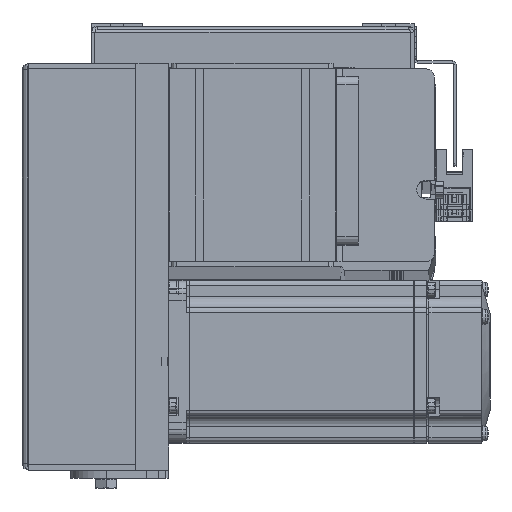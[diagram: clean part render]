
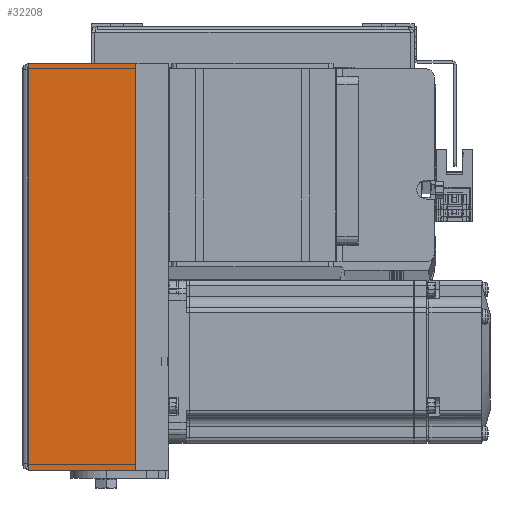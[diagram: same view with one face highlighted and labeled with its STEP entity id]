
A CAD part, top view. The second image highlights one B-rep face of the part: STEP entity #32208.
In plain terms, the highlighted planar face has unit normal (0, 0, 1) as drawn and (0, -1, 0) by its records, which use the part's own axes.
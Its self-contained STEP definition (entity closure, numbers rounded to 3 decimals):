
#617 = CARTESIAN_POINT ( 'NONE',  ( 75., -36., 51.5 ) ) ;
#1445 = CARTESIAN_POINT ( 'NONE',  ( 75., -36., 51.5 ) ) ;
#1963 = CARTESIAN_POINT ( 'NONE',  ( 0., -36., 12. ) ) ;
#2253 = VERTEX_POINT ( 'NONE', #3349 ) ;
#3044 = CARTESIAN_POINT ( 'NONE',  ( -75., -36., 12. ) ) ;
#3349 = CARTESIAN_POINT ( 'NONE',  ( -75., -36., 51.5 ) ) ;
#3882 = EDGE_CURVE ( 'NONE', #26985, #16327, #19334, .T. ) ;
#3929 = DIRECTION ( 'NONE',  ( 0., 0., -1. ) ) ;
#4203 = AXIS2_PLACEMENT_3D ( 'NONE', #32606, #38658, #14774 ) ;
#5624 = EDGE_LOOP ( 'NONE', ( #17553, #13250, #12008, #37002 ) ) ;
#7227 = VECTOR ( 'NONE', #13835, 1000. ) ;
#11231 = VECTOR ( 'NONE', #37424, 1000. ) ;
#11288 = PLANE ( 'NONE',  #4203 ) ;
#11458 = LINE ( 'NONE', #1963, #15352 ) ;
#12008 = ORIENTED_EDGE ( 'NONE', *, *, #40000, .T. ) ;
#12680 = CARTESIAN_POINT ( 'NONE',  ( -75., -36., 51.5 ) ) ;
#13250 = ORIENTED_EDGE ( 'NONE', *, *, #36156, .T. ) ;
#13835 = DIRECTION ( 'NONE',  ( 1., 0., 0. ) ) ;
#14135 = DIRECTION ( 'NONE',  ( 1., 0., 0. ) ) ;
#14360 = VERTEX_POINT ( 'NONE', #3044 ) ;
#14774 = DIRECTION ( 'NONE',  ( 0., 0., -1. ) ) ;
#15352 = VECTOR ( 'NONE', #14135, 1000. ) ;
#16327 = VERTEX_POINT ( 'NONE', #30761 ) ;
#17553 = ORIENTED_EDGE ( 'NONE', *, *, #33913, .F. ) ;
#19334 = LINE ( 'NONE', #31676, #35414 ) ;
#26985 = VERTEX_POINT ( 'NONE', #617 ) ;
#28102 = LINE ( 'NONE', #12680, #11231 ) ;
#30132 = FACE_OUTER_BOUND ( 'NONE', #5624, .T. ) ;
#30761 = CARTESIAN_POINT ( 'NONE',  ( 75., -36., 12. ) ) ;
#31676 = CARTESIAN_POINT ( 'NONE',  ( 75., -36., 51.5 ) ) ;
#32208 = ADVANCED_FACE ( 'NONE', ( #30132 ), #11288, .F. ) ;
#32606 = CARTESIAN_POINT ( 'NONE',  ( 0., -36., 52. ) ) ;
#33913 = EDGE_CURVE ( 'NONE', #2253, #26985, #35318, .T. ) ;
#35318 = LINE ( 'NONE', #1445, #7227 ) ;
#35414 = VECTOR ( 'NONE', #3929, 1000. ) ;
#36156 = EDGE_CURVE ( 'NONE', #2253, #14360, #28102, .T. ) ;
#37002 = ORIENTED_EDGE ( 'NONE', *, *, #3882, .F. ) ;
#37424 = DIRECTION ( 'NONE',  ( 0., 0., -1. ) ) ;
#38658 = DIRECTION ( 'NONE',  ( 0., 1., 0. ) ) ;
#40000 = EDGE_CURVE ( 'NONE', #14360, #16327, #11458, .T. ) ;
